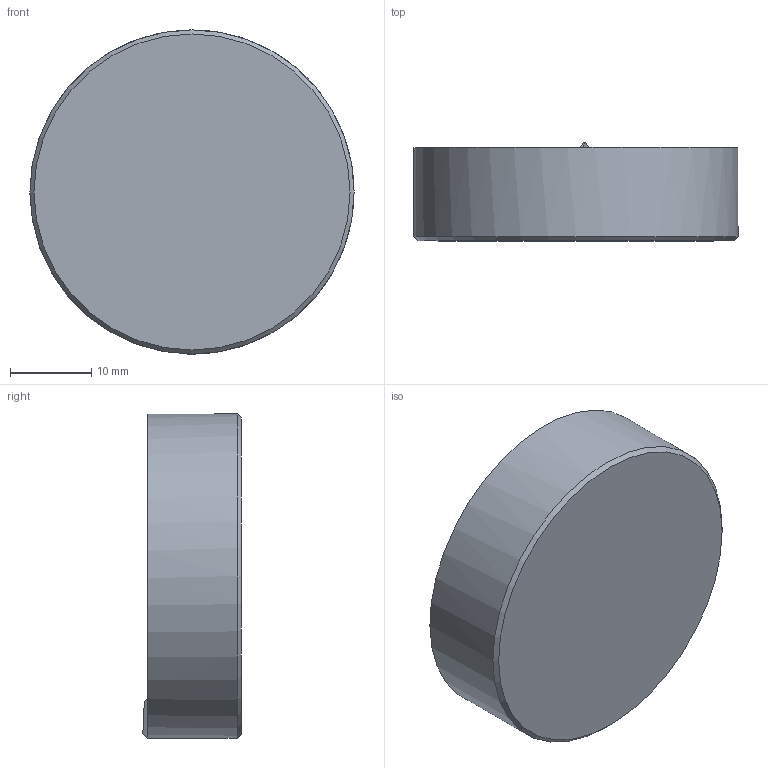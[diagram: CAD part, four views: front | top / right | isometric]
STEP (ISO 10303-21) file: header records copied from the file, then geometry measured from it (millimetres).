
FILE_DESCRIPTION( ( 'STEP AP203' ), '1' );
FILE_NAME( 'C:/Temp/Ganter_Step_05_03_2020/data/3_2/gn187_4/gn187_4_st/Serrated locking plate GN 187.4-40-60-E-ST.stp', '2020-03-13T05:25:50', ( 'License CC BY-ND 4.0' ), ( 'CADENAS' ), ' ', 'PARTsolutions', ' ' );
FILE_SCHEMA( ( 'CONFIG_CONTROL_DESIGN' ) );
Length unit declared in the file: millimetre
Products named in the file (1): _Serrated locking plate GN 187.4-40-60-E-ST
Bounding box: 40 x 12.13 x 40 mm (x, y, z)
Volume: 13372.1 mm3; surface area: 4072.5 mm2
Topology: 1 solids, 1 shells, 15 faces, 38 edges, 25 vertices
Faces by surface type: plane 7, cone 4, cylinder 4
Full cylindrical faces by diameter (mm): 30 x1, 40 x1
Entity records: 554 total; most frequent: CARTESIAN_POINT 174, DIRECTION 72, ORIENTED_EDGE 66, AXIS2_PLACEMENT_3D 33, EDGE_CURVE 33, VERTEX_POINT 23, EDGE_LOOP 18, FACE_OUTER_BOUND 17
